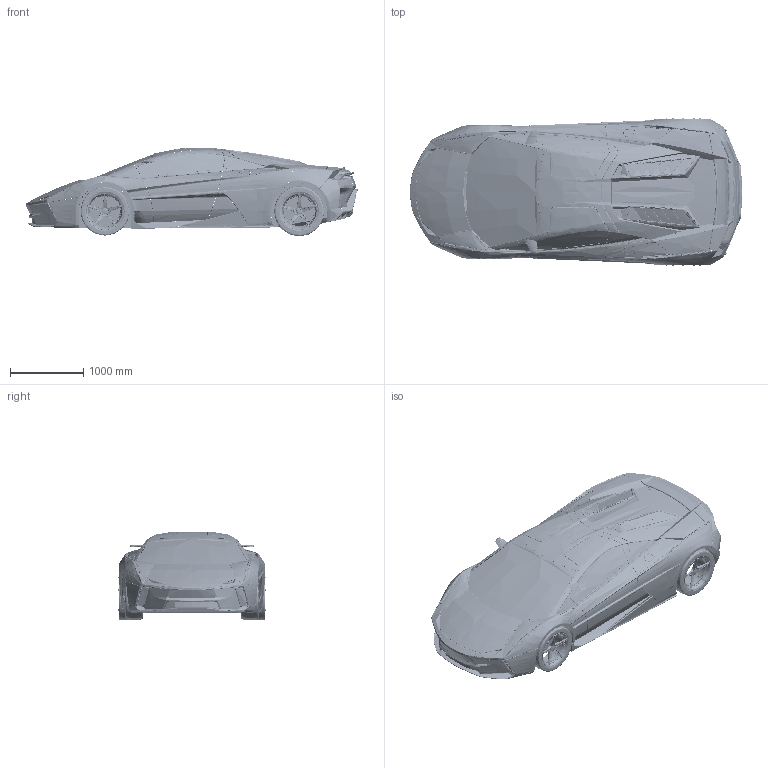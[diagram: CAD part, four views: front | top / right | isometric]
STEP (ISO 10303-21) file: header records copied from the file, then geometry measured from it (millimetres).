
FILE_DESCRIPTION(/* description */ ('Generated from Alias Stage'),/* implementation_level */ '2;1');
FILE_NAME(/* name */ 'Lambo_concept',/* time_stamp */ '2016-09-02T17:19:39-05:00',/* author */ (''),/* organization */ ('Alias Systems'),/* preprocessor_version */ 'ST-DEVELOPER v11',/* originating_system */ 'Autodesk OpenModel 2010',/* authorisation */ '');
FILE_SCHEMA (('AUTOMOTIVE_DESIGN { 1 2 10303 214 1 1 1 1 }'));
Products named in the file (1): Lambo_concept
Bounding box: 4529.6 x 2008.93 x 1211.62 mm (x, y, z)
Surface area: 37152747.2 mm2 (no closed solid volume)
Topology: 0 solids, 0 shells, 8668 faces, 37378 edges, 37088 vertices
Faces by surface type: bspline 8668
Entity records: 782714 total; most frequent: CARTESIAN_POINT 692456, DEFINITIONAL_REPRESENTATION 23870, PCURVE 23870, COMPOSITE_CURVE_SEGMENT 23870, STYLED_ITEM 7932, OUTER_BOUNDARY_CURVE 5246, CURVE_BOUNDED_SURFACE 5246, BOUNDARY_CURVE 78
